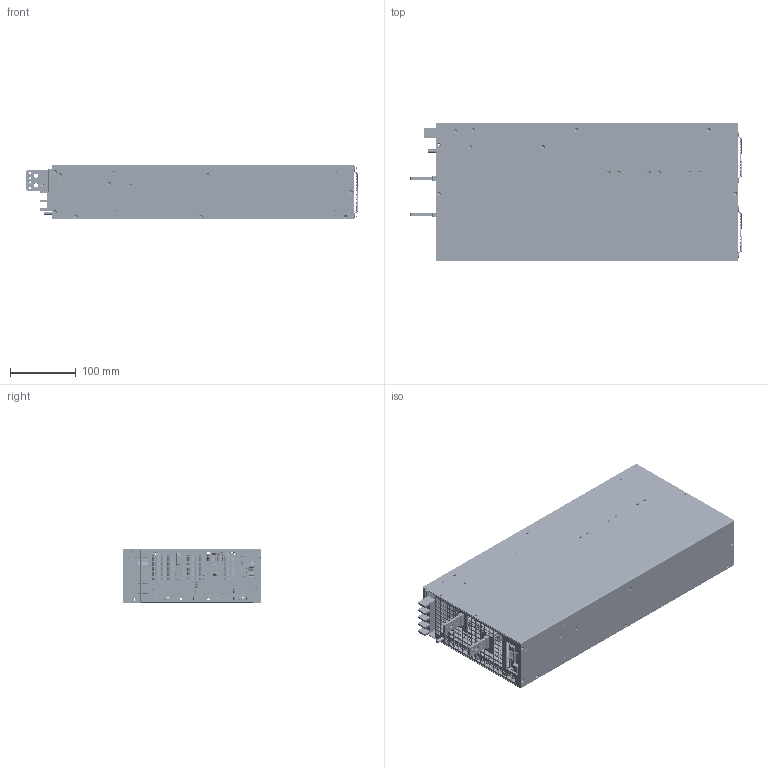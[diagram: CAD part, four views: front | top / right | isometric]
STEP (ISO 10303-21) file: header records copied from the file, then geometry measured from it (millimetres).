
FILE_DESCRIPTION((''),'2;1');
FILE_NAME('SHP-10K_ASM','2022-06-17T',('Vincent.Kao'),(''),'CREO PARAMETRIC BY PTC INC, 2016260','CREO PARAMETRIC BY PTC INC, 2016260','');
FILE_SCHEMA(('AUTOMOTIVE_DESIGN { 1 0 10303 214 1 1 1 1 }'));
Products named in the file (144): 7; 22; BOTTOM_CASE; 10_; BOTTOM_ASM; TOP_COVER; BRACKET; NUT_7MM; BRACKET_ASM; MOS-18_09W-6_1_2_2_1; MOS27_73W-4; MOS8_95W-1; MOS-ALL_ASM; PCB-A_; PCB_A; PCB-C; PCB_C; PCB-E; PCB_E; PCB-G_; PCB_G; PCB-J; PCB_J; PCB-N; PCB_N; SECC_1019; CU_1019; TB1; REALY_1_1_1_1_1_1; REALY-1_ASM; PCB-Q; PCB-Q_LAYOUT; PCB-B; JH-8M3; SI-16_1_3_1; FIXTURE_0412; PCB_1_ASM; PAD3-1; PAD-ALL_ASM; HS_1022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
Assembly tree (270 placements, depth 4):
  SHP-10K_ASM
    BOTTOM_ASM
      7  x2
      22  x5
      BOTTOM_CASE
      10_  x3
    TOP_COVER
    BRACKET_ASM
      BRACKET
      NUT_7MM  x4
    PCB_1_ASM
      MOS-ALL_ASM
        MOS-18_09W-6_1_2_2_1  x12
        MOS27_73W-4  x4
        MOS8_95W-1  x12
      PCB-A_
      PCB_A
      PCB-C
      PCB_C
      PCB-E
      PCB_E
      PCB-G_
      PCB_G
      PCB-J
      PCB_J
      PCB-N
      PCB_N
      SECC_1019  x4
      CU_1019  x3
      TB1
      REALY-1_ASM
        REALY_1_1_1_1_1_1  x3
      PCB-Q
      PCB-Q_LAYOUT
      PCB-B
      JH-8M3
      SI-16_1_3_1  x4
      FIXTURE_0412
    PAD-ALL_ASM
      SI-16_1_3_1  x28
      PAD3-1  x3
    HS_1022
    PCB_2_ASM
      PCB-D
      PCB_D
      PCB-H
      PCB_H
      PCB-I
      PCB_I
      PCB-K
      PCB_K
      EEE-721030
      P2_1-563960
      VR_1-995890  x2
    PCB_M_ASM
      P4
      0_14W_ASM
        CAP
      PCB-M  x2
      PCB_M
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Bounding box: 505.29 x 211 x 83.6 mm (x, y, z)
Volume: 3641669.6 mm3; surface area: 2854011.7 mm2
Topology: 256 solids, 259 shells, 6890 faces, 18345 edges, 12037 vertices
Faces by surface type: plane 4276, cylinder 1820, cone 341, torus 266, bspline 163, sphere 24
Entity records: 226185 total; most frequent: CARTESIAN_POINT 43692, DIRECTION 27606, ORIENTED_EDGE 27020, EDGE_CURVE 13531, PRESENTATION_STYLE_ASSIGNMENT 13074, STYLED_ITEM 12943, CURVE_STYLE 11970, VECTOR 9450
